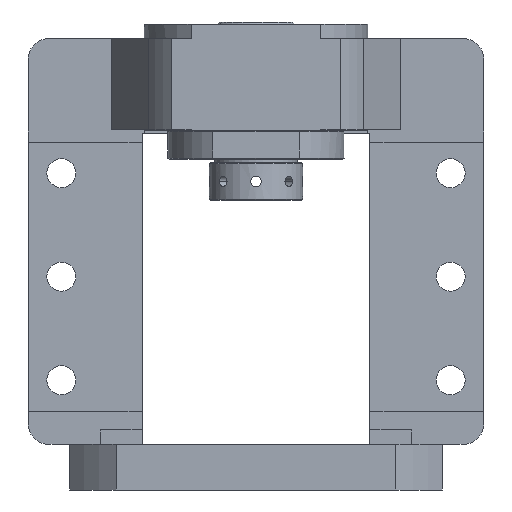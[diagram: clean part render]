
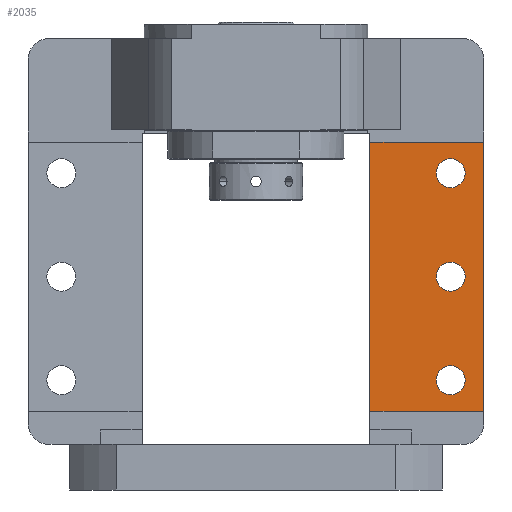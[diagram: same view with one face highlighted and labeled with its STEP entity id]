
A CAD part, front view. The second image highlights one B-rep face of the part: STEP entity #2035.
In plain terms, the highlighted planar face has unit normal (0, -1, 0).
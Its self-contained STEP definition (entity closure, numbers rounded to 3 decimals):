
#156 = DIRECTION ( 'NONE',  ( 0., 0., -1. ) ) ;
#202 = DIRECTION ( 'NONE',  ( 0., -1., 0. ) ) ;
#336 = CIRCLE ( 'NONE', #7371, 7. ) ;
#369 = CIRCLE ( 'NONE', #8632, 7. ) ;
#378 = EDGE_CURVE ( 'NONE', #11614, #3777, #456, .T. ) ;
#456 = CIRCLE ( 'NONE', #472, 7. ) ;
#472 = AXIS2_PLACEMENT_3D ( 'NONE', #1767, #4642, #11993 ) ;
#494 = LINE ( 'NONE', #10999, #2682 ) ;
#773 = ORIENTED_EDGE ( 'NONE', *, *, #8040, .T. ) ;
#789 = DIRECTION ( 'NONE',  ( 0., -1., 0. ) ) ;
#949 = CARTESIAN_POINT ( 'NONE',  ( 94., 0., 153. ) ) ;
#1149 = ORIENTED_EDGE ( 'NONE', *, *, #9143, .T. ) ;
#1744 = PLANE ( 'NONE',  #6006 ) ;
#1767 = CARTESIAN_POINT ( 'NONE',  ( 94., 0., 103. ) ) ;
#1887 = DIRECTION ( 'NONE',  ( 0., 0., -1. ) ) ;
#2035 = ADVANCED_FACE ( 'NONE', ( #11331, #5755, #8550, #3300 ), #1744, .T. ) ;
#2126 = ORIENTED_EDGE ( 'NONE', *, *, #9997, .F. ) ;
#2200 = DIRECTION ( 'NONE',  ( 0., -1., 0. ) ) ;
#2448 = CARTESIAN_POINT ( 'NONE',  ( 94., 0., 110. ) ) ;
#2453 = ORIENTED_EDGE ( 'NONE', *, *, #6692, .F. ) ;
#2591 = VECTOR ( 'NONE', #10978, 1000. ) ;
#2682 = VECTOR ( 'NONE', #5395, 1000. ) ;
#2880 = VERTEX_POINT ( 'NONE', #9084 ) ;
#2919 = AXIS2_PLACEMENT_3D ( 'NONE', #6356, #789, #7300 ) ;
#3067 = CARTESIAN_POINT ( 'NONE',  ( 94., 0., 160. ) ) ;
#3201 = VERTEX_POINT ( 'NONE', #3067 ) ;
#3300 = FACE_OUTER_BOUND ( 'NONE', #3693, .T. ) ;
#3532 = CIRCLE ( 'NONE', #2919, 7. ) ;
#3578 = EDGE_CURVE ( 'NONE', #10416, #3201, #336, .T. ) ;
#3693 = EDGE_LOOP ( 'NONE', ( #2126, #4196, #773, #1149 ) ) ;
#3777 = VERTEX_POINT ( 'NONE', #8686 ) ;
#3857 = CIRCLE ( 'NONE', #4852, 7. ) ;
#4102 = VERTEX_POINT ( 'NONE', #8815 ) ;
#4159 = VERTEX_POINT ( 'NONE', #5130 ) ;
#4196 = ORIENTED_EDGE ( 'NONE', *, *, #4284, .T. ) ;
#4281 = EDGE_CURVE ( 'NONE', #4102, #7523, #3532, .T. ) ;
#4284 = EDGE_CURVE ( 'NONE', #4159, #8203, #8224, .T. ) ;
#4642 = DIRECTION ( 'NONE',  ( 0., -1., 0. ) ) ;
#4852 = AXIS2_PLACEMENT_3D ( 'NONE', #7802, #2200, #8738 ) ;
#4885 = CARTESIAN_POINT ( 'NONE',  ( 55., 0., 168. ) ) ;
#5130 = CARTESIAN_POINT ( 'NONE',  ( 110., 0., 168. ) ) ;
#5328 = ORIENTED_EDGE ( 'NONE', *, *, #9214, .F. ) ;
#5395 = DIRECTION ( 'NONE',  ( 0., 0., -1. ) ) ;
#5432 = DIRECTION ( 'NONE',  ( 0., 0., -1. ) ) ;
#5483 = DIRECTION ( 'NONE',  ( 0., -1., 0. ) ) ;
#5719 = DIRECTION ( 'NONE',  ( 0., -1., 0. ) ) ;
#5755 = FACE_BOUND ( 'NONE', #11790, .T. ) ;
#5776 = CARTESIAN_POINT ( 'NONE',  ( 94., 0., 53. ) ) ;
#6006 = AXIS2_PLACEMENT_3D ( 'NONE', #8276, #5483, #12011 ) ;
#6018 = CARTESIAN_POINT ( 'NONE',  ( 110., 0., 38. ) ) ;
#6075 = CARTESIAN_POINT ( 'NONE',  ( 94., 0., 146. ) ) ;
#6140 = ORIENTED_EDGE ( 'NONE', *, *, #4281, .F. ) ;
#6356 = CARTESIAN_POINT ( 'NONE',  ( 94., 0., 53. ) ) ;
#6375 = CARTESIAN_POINT ( 'NONE',  ( 94., 0., 60. ) ) ;
#6425 = AXIS2_PLACEMENT_3D ( 'NONE', #5776, #202, #6713 ) ;
#6435 = ORIENTED_EDGE ( 'NONE', *, *, #378, .F. ) ;
#6692 = EDGE_CURVE ( 'NONE', #3777, #11614, #369, .T. ) ;
#6713 = DIRECTION ( 'NONE',  ( 0., 0., -1. ) ) ;
#6960 = CIRCLE ( 'NONE', #6425, 7. ) ;
#6969 = EDGE_LOOP ( 'NONE', ( #10689, #7409 ) ) ;
#7300 = DIRECTION ( 'NONE',  ( 0., 0., -1. ) ) ;
#7371 = AXIS2_PLACEMENT_3D ( 'NONE', #949, #7463, #1887 ) ;
#7387 = LINE ( 'NONE', #9168, #9296 ) ;
#7409 = ORIENTED_EDGE ( 'NONE', *, *, #10303, .F. ) ;
#7463 = DIRECTION ( 'NONE',  ( 0., -1., 0. ) ) ;
#7523 = VERTEX_POINT ( 'NONE', #6375 ) ;
#7802 = CARTESIAN_POINT ( 'NONE',  ( 94., 0., 153. ) ) ;
#8040 = EDGE_CURVE ( 'NONE', #8203, #2880, #494, .T. ) ;
#8148 = LINE ( 'NONE', #8168, #2591 ) ;
#8168 = CARTESIAN_POINT ( 'NONE',  ( 110., 0., 38. ) ) ;
#8203 = VERTEX_POINT ( 'NONE', #4885 ) ;
#8224 = LINE ( 'NONE', #8246, #10398 ) ;
#8246 = CARTESIAN_POINT ( 'NONE',  ( 110., 0., 168. ) ) ;
#8276 = CARTESIAN_POINT ( 'NONE',  ( 110., 0., 225. ) ) ;
#8550 = FACE_BOUND ( 'NONE', #8710, .T. ) ;
#8632 = AXIS2_PLACEMENT_3D ( 'NONE', #11337, #5719, #156 ) ;
#8686 = CARTESIAN_POINT ( 'NONE',  ( 94., 0., 96. ) ) ;
#8710 = EDGE_LOOP ( 'NONE', ( #2453, #6435 ) ) ;
#8738 = DIRECTION ( 'NONE',  ( 0., 0., -1. ) ) ;
#8815 = CARTESIAN_POINT ( 'NONE',  ( 94., 0., 46. ) ) ;
#9084 = CARTESIAN_POINT ( 'NONE',  ( 55., 0., 38. ) ) ;
#9140 = DIRECTION ( 'NONE',  ( -1., 0., 0. ) ) ;
#9143 = EDGE_CURVE ( 'NONE', #2880, #11533, #8148, .T. ) ;
#9168 = CARTESIAN_POINT ( 'NONE',  ( 110., 0., 225. ) ) ;
#9214 = EDGE_CURVE ( 'NONE', #7523, #4102, #6960, .T. ) ;
#9296 = VECTOR ( 'NONE', #5432, 1000. ) ;
#9997 = EDGE_CURVE ( 'NONE', #4159, #11533, #7387, .T. ) ;
#10303 = EDGE_CURVE ( 'NONE', #3201, #10416, #3857, .T. ) ;
#10398 = VECTOR ( 'NONE', #9140, 1000. ) ;
#10416 = VERTEX_POINT ( 'NONE', #6075 ) ;
#10689 = ORIENTED_EDGE ( 'NONE', *, *, #3578, .F. ) ;
#10978 = DIRECTION ( 'NONE',  ( 1., 0., 0. ) ) ;
#10999 = CARTESIAN_POINT ( 'NONE',  ( 55., 0., 225. ) ) ;
#11331 = FACE_BOUND ( 'NONE', #6969, .T. ) ;
#11337 = CARTESIAN_POINT ( 'NONE',  ( 94., 0., 103. ) ) ;
#11533 = VERTEX_POINT ( 'NONE', #6018 ) ;
#11614 = VERTEX_POINT ( 'NONE', #2448 ) ;
#11790 = EDGE_LOOP ( 'NONE', ( #6140, #5328 ) ) ;
#11993 = DIRECTION ( 'NONE',  ( 0., 0., -1. ) ) ;
#12011 = DIRECTION ( 'NONE',  ( 0., 0., -1. ) ) ;
